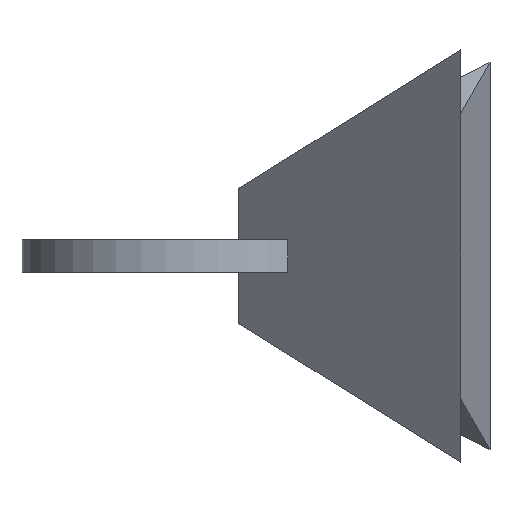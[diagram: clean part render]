
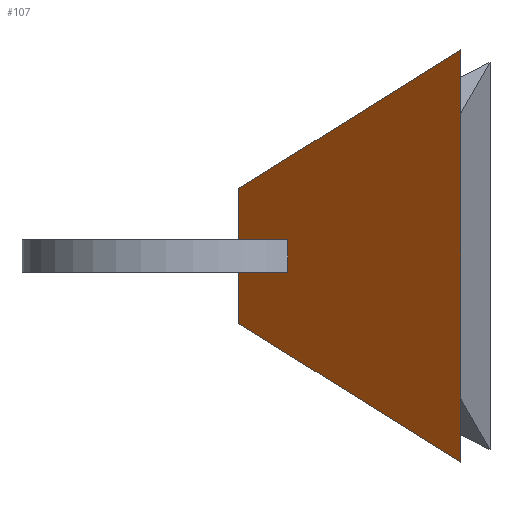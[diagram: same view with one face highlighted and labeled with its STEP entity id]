
A CAD part, front view. The second image highlights one B-rep face of the part: STEP entity #107.
In plain terms, the highlighted planar face has unit normal (-0.707, -0.707, 0).
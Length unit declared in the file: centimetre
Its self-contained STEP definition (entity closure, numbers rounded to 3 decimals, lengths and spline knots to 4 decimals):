
#107=ADVANCED_FACE('12:1708',(#132),#133,.T.);
#132=FACE_OUTER_BOUND('',#162,.T.);
#133=PLANE('',#163);
#162=EDGE_LOOP('',(#235,#236,#237,#238,#239,#240,#241,#242));
#163=AXIS2_PLACEMENT_3D('',#243,#244,#245);
#235=ORIENTED_EDGE('',*,*,#305,.F.);
#236=ORIENTED_EDGE('',*,*,#288,.F.);
#237=ORIENTED_EDGE('',*,*,#313,.T.);
#238=ORIENTED_EDGE('',*,*,#311,.T.);
#239=ORIENTED_EDGE('',*,*,#314,.T.);
#240=ORIENTED_EDGE('',*,*,#292,.F.);
#241=ORIENTED_EDGE('',*,*,#315,.F.);
#242=ORIENTED_EDGE('',*,*,#301,.T.);
#243=CARTESIAN_POINT('',(5.2326,-5.6922,1.));
#244=DIRECTION('',(-0.707,-0.707,0.));
#245=DIRECTION('',(-0.707,0.707,0.));
#288=EDGE_CURVE('8:162',#324,#326,#327,.T.);
#292=EDGE_CURVE('11:160',#332,#334,#335,.T.);
#301=EDGE_CURVE('8:201',#350,#348,#351,.T.);
#305=EDGE_CURVE('8:147',#326,#348,#357,.T.);
#311=EDGE_CURVE('8:189',#359,#366,#368,.T.);
#313=EDGE_CURVE('8:165',#324,#359,#370,.T.);
#314=EDGE_CURVE('12:1816',#366,#334,#371,.T.);
#315=EDGE_CURVE('12:1846',#350,#332,#372,.T.);
#324=VERTEX_POINT('',#381);
#326=VERTEX_POINT('',#383);
#327=LINE('',#384,#385);
#332=VERTEX_POINT('',#391);
#334=VERTEX_POINT('',#394);
#335=LINE('',#395,#396);
#348=VERTEX_POINT('',#414);
#350=VERTEX_POINT('',#416);
#351=LINE('',#417,#418);
#357=LINE('',#425,#426);
#359=VERTEX_POINT('',#429);
#366=VERTEX_POINT('',#437);
#368=LINE('',#439,#440);
#370=LINE('',#443,#444);
#371=LINE('',#445,#446);
#372=LINE('',#447,#448);
#381=CARTESIAN_POINT('',(3.2982,-3.7579,-0.5));
#383=CARTESIAN_POINT('',(3.2982,-3.7579,0.5));
#384=CARTESIAN_POINT('',(3.2982,-3.7579,0.));
#385=VECTOR('',#461,1.0);
#391=CARTESIAN_POINT('',(8.6974,-9.157,6.4375));
#394=CARTESIAN_POINT('',(8.6974,-9.157,-6.4375));
#395=CARTESIAN_POINT('',(8.6974,-9.157,1.));
#396=VECTOR('',#467,1.0);
#414=CARTESIAN_POINT('',(1.7678,-2.2274,0.5));
#416=CARTESIAN_POINT('',(1.7678,-2.2274,2.1052));
#417=CARTESIAN_POINT('',(1.7678,-2.2274,-1.));
#418=VECTOR('',#482,1.0);
#425=CARTESIAN_POINT('',(2.6163,-3.0759,0.5));
#426=VECTOR('',#490,1.0);
#429=CARTESIAN_POINT('',(1.7678,-2.2274,-0.5));
#437=CARTESIAN_POINT('',(1.7678,-2.2274,-2.1052));
#439=CARTESIAN_POINT('',(1.7678,-2.2274,-1.));
#440=VECTOR('',#502,1.0);
#443=CARTESIAN_POINT('',(2.6163,-3.0759,-0.5));
#444=VECTOR('',#504,1.0);
#445=CARTESIAN_POINT('',(1.9271,-2.3867,-2.2048));
#446=VECTOR('',#505,1.);
#447=CARTESIAN_POINT('',(2.1886,-2.6482,2.3683));
#448=VECTOR('',#506,1.0);
#461=DIRECTION('',(0.0,0.,1.0));
#467=DIRECTION('',(0.,0.,-1.0));
#482=DIRECTION('',(0.,0.,-1.0));
#490=DIRECTION('',(-0.707,0.707,0.));
#502=DIRECTION('',(0.,0.,-1.0));
#504=DIRECTION('',(-0.707,0.707,0.));
#505=DIRECTION('',(0.647,-0.647,-0.404));
#506=DIRECTION('',(0.647,-0.647,0.404));
